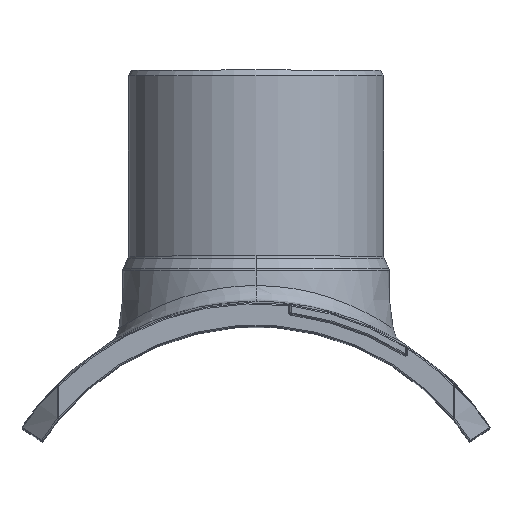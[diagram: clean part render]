
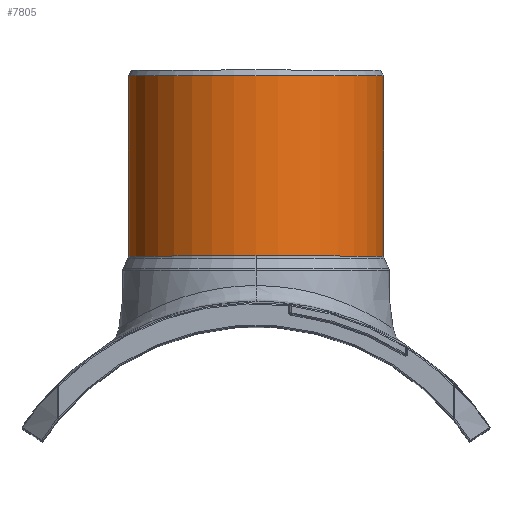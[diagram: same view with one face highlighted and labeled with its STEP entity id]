
A CAD part, top view. The second image highlights one B-rep face of the part: STEP entity #7805.
In plain terms, the highlighted cylindrical face has radius 112.5 mm (diameter 225 mm), a partial arc.
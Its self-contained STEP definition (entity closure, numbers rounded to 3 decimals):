
#1728=CARTESIAN_POINT('',(0.,287.083,0.));
#1729=DIRECTION('',(0.,-1.,0.));
#1730=DIRECTION('',(1.,0.,0.));
#1731=AXIS2_PLACEMENT_3D('',#1728,#1729,#1730);
#1736=CARTESIAN_POINT('',(0.,287.083,0.));
#1737=DIRECTION('',(0.,-1.,0.));
#1738=DIRECTION('',(0.,0.,1.));
#1739=AXIS2_PLACEMENT_3D('',#1736,#1737,#1738);
#1744=DIRECTION('',(0.,-1.,0.));
#1745=VECTOR('',#1744,158.917);
#1746=CARTESIAN_POINT('',(-112.5,446.,0.));
#1747=LINE('151588',#1746,#1745);
#1751=DIRECTION('',(0.,-1.,0.));
#1752=VECTOR('',#1751,158.917);
#1753=CARTESIAN_POINT('',(112.5,446.,0.));
#1754=LINE('151587',#1753,#1752);
#1805=CARTESIAN_POINT('',(0.,446.,0.));
#1806=DIRECTION('',(0.,1.,0.));
#1807=DIRECTION('',(-1.,0.,0.));
#1808=AXIS2_PLACEMENT_3D('',#1805,#1806,#1807);
#6005=CARTESIAN_POINT('',(112.5,446.,0.));
#6006=CARTESIAN_POINT('',(-112.5,446.,0.));
#6007=VERTEX_POINT('',#6005);
#6008=VERTEX_POINT('',#6006);
#6029=CARTESIAN_POINT('',(112.5,287.083,0.));
#6030=CARTESIAN_POINT('',(0.,287.083,112.5));
#6031=VERTEX_POINT('',#6029);
#6032=VERTEX_POINT('',#6030);
#6033=CARTESIAN_POINT('',(-112.5,287.083,0.));
#6034=VERTEX_POINT('',#6033);
#7790=CARTESIAN_POINT('',(0.,451.,0.));
#7791=DIRECTION('',(0.,1.,0.));
#7792=DIRECTION('',(1.,0.,0.));
#7793=AXIS2_PLACEMENT_3D('',#7790,#7791,#7792);
#7794=CYLINDRICAL_SURFACE('4584',#7793,112.5);
#7795=ORIENTED_EDGE('151579',*,*,#7767,.T.);
#7796=ORIENTED_EDGE('151581',*,*,#7782,.T.);
#7798=ORIENTED_EDGE('151588',*,*,#7797,.F.);
#7800=ORIENTED_EDGE('4600',*,*,#7799,.T.);
#7802=ORIENTED_EDGE('151587',*,*,#7801,.T.);
#7803=EDGE_LOOP('4584',(#7795,#7796,#7798,#7800,#7802));
#7804=FACE_OUTER_BOUND('4584',#7803,.F.);
#1732=CIRCLE('151579',#1731,112.5);
#1740=CIRCLE('151581',#1739,112.5);
#1809=CIRCLE('4600',#1808,112.5);
#7767=EDGE_CURVE('151579',#6031,#6032,#1732,.T.);
#7782=EDGE_CURVE('151581',#6032,#6034,#1740,.T.);
#7797=EDGE_CURVE('151588',#6008,#6034,#1747,.T.);
#7799=EDGE_CURVE('4600',#6008,#6007,#1809,.T.);
#7801=EDGE_CURVE('151587',#6007,#6031,#1754,.T.);
#7805=ADVANCED_FACE('4584',(#7804),#7794,.T.);
